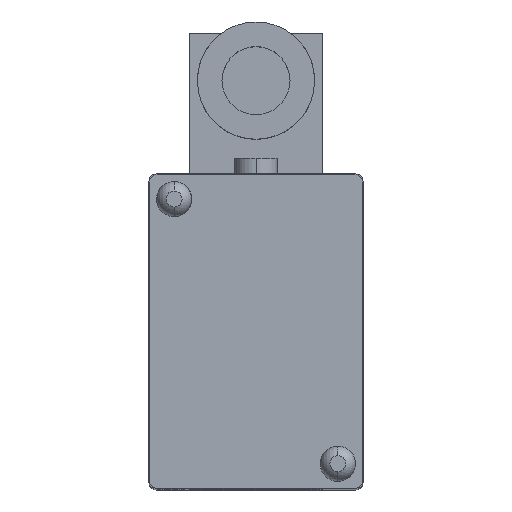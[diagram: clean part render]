
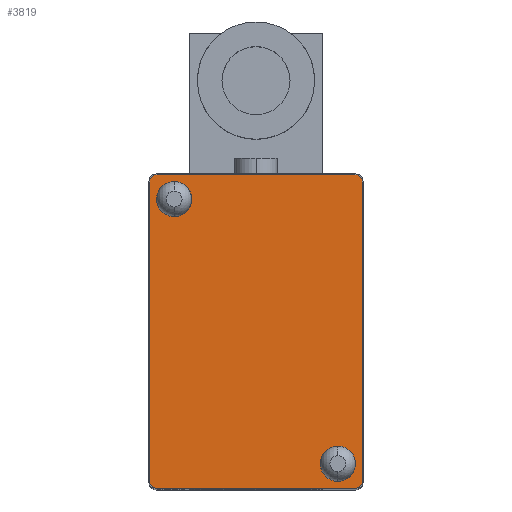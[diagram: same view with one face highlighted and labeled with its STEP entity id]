
A CAD part, top view. The second image highlights one B-rep face of the part: STEP entity #3819.
In plain terms, the highlighted planar face has unit normal (0, 0, 1).
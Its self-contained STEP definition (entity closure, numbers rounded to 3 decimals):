
#85 = DIRECTION ( 'NONE',  ( -1., 0., 0. ) ) ;
#91 = ORIENTED_EDGE ( 'NONE', *, *, #2525, .T. ) ;
#184 = VERTEX_POINT ( 'NONE', #434 ) ;
#189 = AXIS2_PLACEMENT_3D ( 'NONE', #408, #3350, #2418 ) ;
#190 = FACE_OUTER_BOUND ( 'NONE', #3451, .T. ) ;
#243 = CARTESIAN_POINT ( 'NONE',  ( -15.7, 23.7, 10. ) ) ;
#372 = AXIS2_PLACEMENT_3D ( 'NONE', #3545, #1823, #686 ) ;
#373 = EDGE_CURVE ( 'NONE', #3234, #758, #3191, .T. ) ;
#388 = LINE ( 'NONE', #1059, #3218 ) ;
#408 = CARTESIAN_POINT ( 'NONE',  ( 15.7, -23.7, 10. ) ) ;
#434 = CARTESIAN_POINT ( 'NONE',  ( -16.9, 23.7, 10. ) ) ;
#476 = CARTESIAN_POINT ( 'NONE',  ( 13., -21., 10. ) ) ;
#528 = DIRECTION ( 'NONE',  ( 0., 0., -1. ) ) ;
#686 = DIRECTION ( 'NONE',  ( 1., 0., 0. ) ) ;
#745 = EDGE_CURVE ( 'NONE', #2788, #2216, #2746, .T. ) ;
#749 = DIRECTION ( 'NONE',  ( 0., 1., 0. ) ) ;
#758 = VERTEX_POINT ( 'NONE', #1876 ) ;
#767 = CARTESIAN_POINT ( 'NONE',  ( -15.7, 24.9, 10. ) ) ;
#795 = EDGE_CURVE ( 'NONE', #2216, #2788, #3573, .T. ) ;
#898 = LINE ( 'NONE', #2425, #1051 ) ;
#925 = VERTEX_POINT ( 'NONE', #3181 ) ;
#934 = ORIENTED_EDGE ( 'NONE', *, *, #1365, .T. ) ;
#937 = AXIS2_PLACEMENT_3D ( 'NONE', #476, #528, #2852 ) ;
#991 = AXIS2_PLACEMENT_3D ( 'NONE', #3651, #2202, #1003 ) ;
#1003 = DIRECTION ( 'NONE',  ( 1., 0., 0. ) ) ;
#1040 = AXIS2_PLACEMENT_3D ( 'NONE', #1221, #2398, #2419 ) ;
#1051 = VECTOR ( 'NONE', #85, 1000. ) ;
#1055 = CIRCLE ( 'NONE', #189, 1.2 ) ;
#1059 = CARTESIAN_POINT ( 'NONE',  ( -16.9, 23.7, 10. ) ) ;
#1068 = ORIENTED_EDGE ( 'NONE', *, *, #3787, .T. ) ;
#1081 = AXIS2_PLACEMENT_3D ( 'NONE', #1857, #3387, #3714 ) ;
#1131 = DIRECTION ( 'NONE',  ( 1., 0., 0. ) ) ;
#1142 = EDGE_CURVE ( 'NONE', #3724, #184, #2649, .T. ) ;
#1147 = ORIENTED_EDGE ( 'NONE', *, *, #3684, .T. ) ;
#1195 = CARTESIAN_POINT ( 'NONE',  ( 16.9, -23.7, 10. ) ) ;
#1221 = CARTESIAN_POINT ( 'NONE',  ( 13., -21., 10. ) ) ;
#1294 = LINE ( 'NONE', #1855, #1621 ) ;
#1317 = CARTESIAN_POINT ( 'NONE',  ( -15.7, -24.9, 10. ) ) ;
#1365 = EDGE_CURVE ( 'NONE', #3633, #925, #3117, .T. ) ;
#1419 = VECTOR ( 'NONE', #1613, 1000. ) ;
#1451 = AXIS2_PLACEMENT_3D ( 'NONE', #3194, #3433, #3160 ) ;
#1454 = ORIENTED_EDGE ( 'NONE', *, *, #745, .T. ) ;
#1538 = AXIS2_PLACEMENT_3D ( 'NONE', #3676, #2765, #3368 ) ;
#1546 = ORIENTED_EDGE ( 'NONE', *, *, #795, .T. ) ;
#1596 = ORIENTED_EDGE ( 'NONE', *, *, #2499, .T. ) ;
#1613 = DIRECTION ( 'NONE',  ( 1., 0., 0. ) ) ;
#1617 = EDGE_LOOP ( 'NONE', ( #1546, #1454 ) ) ;
#1621 = VECTOR ( 'NONE', #749, 1000. ) ;
#1704 = VERTEX_POINT ( 'NONE', #3336 ) ;
#1705 = ORIENTED_EDGE ( 'NONE', *, *, #2868, .T. ) ;
#1751 = CARTESIAN_POINT ( 'NONE',  ( 15.8, -21., 10. ) ) ;
#1823 = DIRECTION ( 'NONE',  ( 0., 0., 1. ) ) ;
#1855 = CARTESIAN_POINT ( 'NONE',  ( 16.9, -23.7, 10. ) ) ;
#1857 = CARTESIAN_POINT ( 'NONE',  ( -13., 21., 10. ) ) ;
#1874 = CARTESIAN_POINT ( 'NONE',  ( -16.9, -23.7, 10. ) ) ;
#1876 = CARTESIAN_POINT ( 'NONE',  ( 10.2, -21., 10. ) ) ;
#1922 = VERTEX_POINT ( 'NONE', #2605 ) ;
#2030 = CARTESIAN_POINT ( 'NONE',  ( -10.2, 21., 10. ) ) ;
#2202 = DIRECTION ( 'NONE',  ( 0., 0., 1. ) ) ;
#2216 = VERTEX_POINT ( 'NONE', #3695 ) ;
#2398 = DIRECTION ( 'NONE',  ( 0., 0., -1. ) ) ;
#2418 = DIRECTION ( 'NONE',  ( 1., 0., 0. ) ) ;
#2419 = DIRECTION ( 'NONE',  ( -1., 0., 0. ) ) ;
#2425 = CARTESIAN_POINT ( 'NONE',  ( 15.7, 24.9, 10. ) ) ;
#2474 = DIRECTION ( 'NONE',  ( 0., -1., 0. ) ) ;
#2499 = EDGE_CURVE ( 'NONE', #3654, #1704, #3273, .T. ) ;
#2525 = EDGE_CURVE ( 'NONE', #925, #3724, #898, .T. ) ;
#2575 = ORIENTED_EDGE ( 'NONE', *, *, #3610, .T. ) ;
#2605 = CARTESIAN_POINT ( 'NONE',  ( 15.7, -24.9, 10. ) ) ;
#2648 = EDGE_LOOP ( 'NONE', ( #1068, #3070 ) ) ;
#2649 = CIRCLE ( 'NONE', #991, 1.2 ) ;
#2717 = ORIENTED_EDGE ( 'NONE', *, *, #2877, .T. ) ;
#2746 = CIRCLE ( 'NONE', #1081, 2.8 ) ;
#2765 = DIRECTION ( 'NONE',  ( 0., 0., -1. ) ) ;
#2766 = LINE ( 'NONE', #1317, #1419 ) ;
#2788 = VERTEX_POINT ( 'NONE', #2030 ) ;
#2852 = DIRECTION ( 'NONE',  ( -1., 0., 0. ) ) ;
#2868 = EDGE_CURVE ( 'NONE', #1704, #1922, #2766, .T. ) ;
#2877 = EDGE_CURVE ( 'NONE', #1922, #3485, #1055, .T. ) ;
#2892 = PLANE ( 'NONE',  #3720 ) ;
#3070 = ORIENTED_EDGE ( 'NONE', *, *, #373, .T. ) ;
#3106 = CARTESIAN_POINT ( 'NONE',  ( 16.9, 23.7, 10. ) ) ;
#3117 = CIRCLE ( 'NONE', #1451, 1.2 ) ;
#3160 = DIRECTION ( 'NONE',  ( 1., 0., 0. ) ) ;
#3181 = CARTESIAN_POINT ( 'NONE',  ( 15.7, 24.9, 10. ) ) ;
#3191 = CIRCLE ( 'NONE', #1040, 2.8 ) ;
#3194 = CARTESIAN_POINT ( 'NONE',  ( 15.7, 23.7, 10. ) ) ;
#3218 = VECTOR ( 'NONE', #2474, 1000. ) ;
#3234 = VERTEX_POINT ( 'NONE', #1751 ) ;
#3270 = ORIENTED_EDGE ( 'NONE', *, *, #1142, .T. ) ;
#3273 = CIRCLE ( 'NONE', #372, 1.2 ) ;
#3336 = CARTESIAN_POINT ( 'NONE',  ( -15.7, -24.9, 10. ) ) ;
#3350 = DIRECTION ( 'NONE',  ( 0., 0., 1. ) ) ;
#3368 = DIRECTION ( 'NONE',  ( -1., 0., 0. ) ) ;
#3387 = DIRECTION ( 'NONE',  ( 0., 0., -1. ) ) ;
#3412 = CIRCLE ( 'NONE', #937, 2.8 ) ;
#3433 = DIRECTION ( 'NONE',  ( 0., 0., 1. ) ) ;
#3437 = FACE_BOUND ( 'NONE', #1617, .T. ) ;
#3451 = EDGE_LOOP ( 'NONE', ( #3270, #1147, #1596, #1705, #2717, #2575, #934, #91 ) ) ;
#3485 = VERTEX_POINT ( 'NONE', #1195 ) ;
#3493 = FACE_BOUND ( 'NONE', #2648, .T. ) ;
#3545 = CARTESIAN_POINT ( 'NONE',  ( -15.7, -23.7, 10. ) ) ;
#3573 = CIRCLE ( 'NONE', #1538, 2.8 ) ;
#3610 = EDGE_CURVE ( 'NONE', #3485, #3633, #1294, .T. ) ;
#3633 = VERTEX_POINT ( 'NONE', #3106 ) ;
#3651 = CARTESIAN_POINT ( 'NONE',  ( -15.7, 23.7, 10. ) ) ;
#3654 = VERTEX_POINT ( 'NONE', #1874 ) ;
#3676 = CARTESIAN_POINT ( 'NONE',  ( -13., 21., 10. ) ) ;
#3684 = EDGE_CURVE ( 'NONE', #184, #3654, #388, .T. ) ;
#3695 = CARTESIAN_POINT ( 'NONE',  ( -15.8, 21., 10. ) ) ;
#3714 = DIRECTION ( 'NONE',  ( -1., 0., 0. ) ) ;
#3720 = AXIS2_PLACEMENT_3D ( 'NONE', #243, #3780, #1131 ) ;
#3724 = VERTEX_POINT ( 'NONE', #767 ) ;
#3780 = DIRECTION ( 'NONE',  ( 0., 0., 1. ) ) ;
#3787 = EDGE_CURVE ( 'NONE', #758, #3234, #3412, .T. ) ;
#3819 = ADVANCED_FACE ( 'NONE', ( #190, #3493, #3437 ), #2892, .T. ) ;
